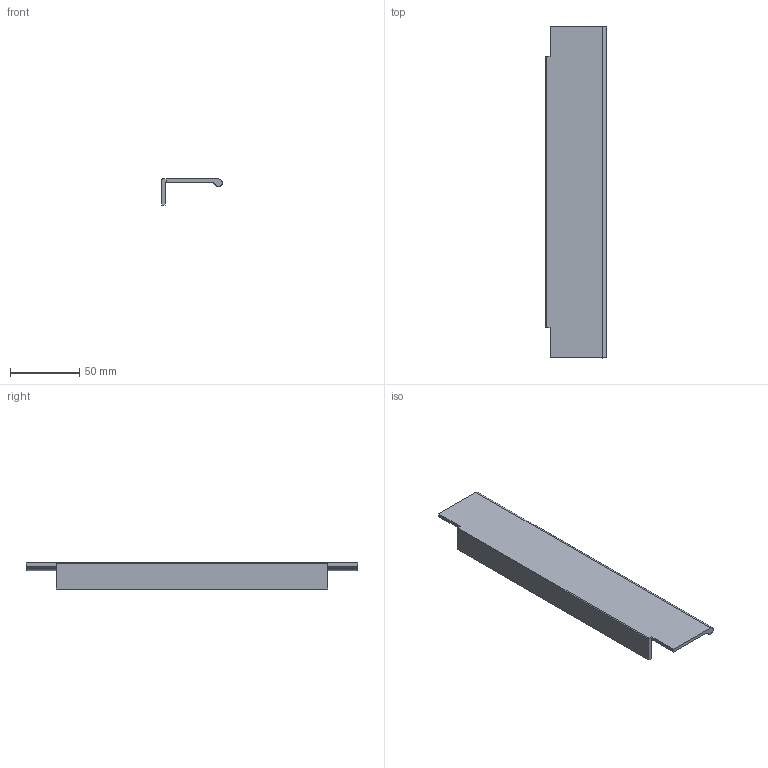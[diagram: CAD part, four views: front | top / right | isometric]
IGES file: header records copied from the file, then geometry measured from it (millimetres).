
Start section: C
Global section: file name: 8235-240.igs; native system: By Siemens PLM Incorporated; preprocessor: XPlus GENERIC/IGES 16.0.42; author: Author; organization: Title; date: 20210331.082238; units: millimetre
Bounding box: 43.9 x 240 x 18.8 mm (x, y, z)
Surface area: 29088.3 mm2 (no closed solid volume)
Topology: 0 solids, 0 shells, 14 faces, 76 edges, 76 vertices
Faces by surface type: bspline 14
